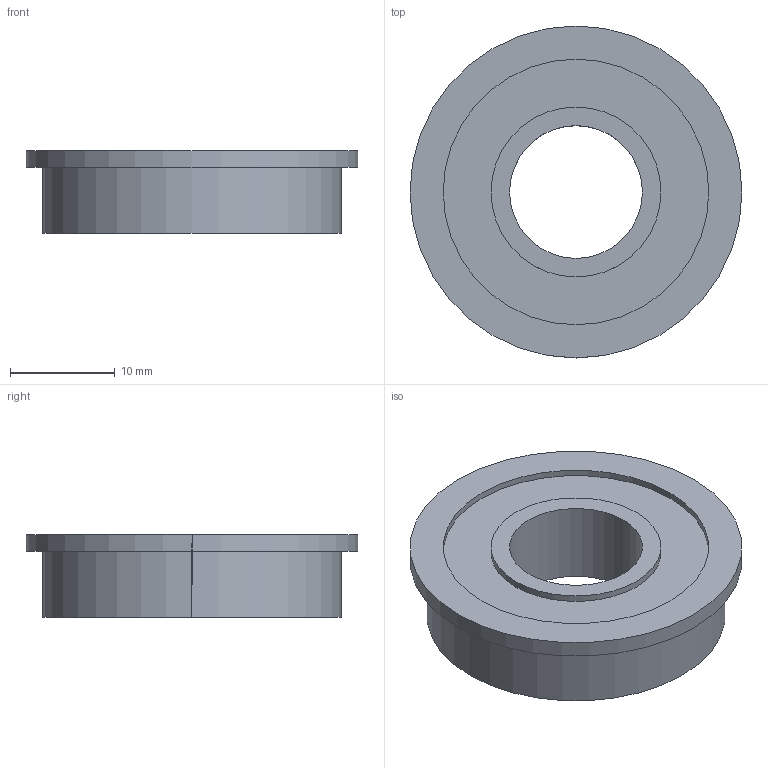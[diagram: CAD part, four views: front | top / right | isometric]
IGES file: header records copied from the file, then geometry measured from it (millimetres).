
Global section: file name: C:\Documents and Settings\Administrator\My Documents\FIRST Project\bearingflanged0500.igs; native system: AutoDesk Inventor R2.0 ; preprocessor: AutoDesk Inventor Iges Exporter R2.0; author: No Author specified; organization: No Organization specified; date: 20011206.210342; units: inch
Bounding box: 31.75 x 31.75 x 7.94 mm (x, y, z)
Surface area: 2541.4 mm2 (no closed solid volume)
Topology: 0 solids, 0 shells, 21 faces, 84 edges, 84 vertices
Faces by surface type: revolution 14, bspline 7
